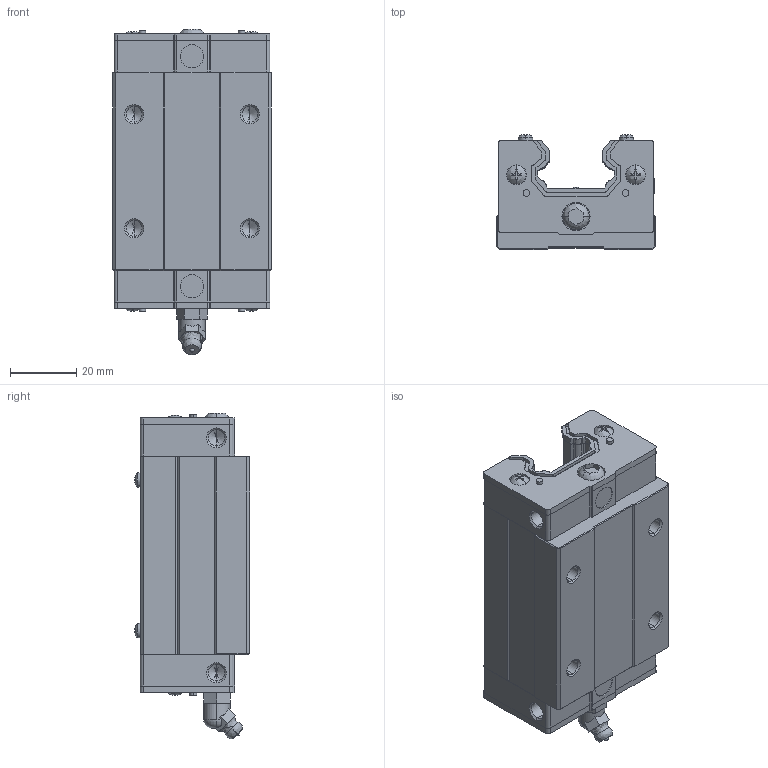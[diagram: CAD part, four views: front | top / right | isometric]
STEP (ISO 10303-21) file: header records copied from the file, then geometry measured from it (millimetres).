
FILE_DESCRIPTION (( 'STEP AP214' ), '1' );
FILE_NAME ('TRH25-B_HGH25CA.STEP', '2020-10-08T10:03:42', ( '' ), ( '' ), 'SwSTEP 2.0', 'SolidWorks 2018', '' );
FILE_SCHEMA (( 'AUTOMOTIVE_DESIGN' ));
Length unit declared in the file: millimetre
Products named in the file (8): TRH25-B_HGH25CA-5_M3*4; TRH25-B_HGH25CA-1; TRH25-B_HGH25CA-2; TRH25-B_HGH25CA-3; TRH25-B_HGH25CA; TRH25-B_HGH25CA-4; TRH25-B_HGH25CA-7_M3*4; TRH25-B_HGH25CA-6_M3*4
Assembly tree (17 placements, depth 2):
  TRH25-B_HGH25CA
    TRH25-B_HGH25CA-3  x2
    TRH25-B_HGH25CA-2  x2
    TRH25-B_HGH25CA-1
    TRH25-B_HGH25CA-5_M3*4  x6
    TRH25-B_HGH25CA-6_M3*4  x4
    TRH25-B_HGH25CA-7_M3*4
    TRH25-B_HGH25CA-4
Bounding box: 48 x 34.78 x 98.42 mm (x, y, z)
Volume: 95659.4 mm3; surface area: 34427.7 mm2
Topology: 18 solids, 18 shells, 1018 faces, 2669 edges, 1717 vertices
Faces by surface type: plane 585, cylinder 256, bspline 72, cone 66, torus 25, sphere 14
Entity records: 24499 total; most frequent: CARTESIAN_POINT 6151, ORIENTED_EDGE 3274, DIRECTION 3028, EDGE_CURVE 1637, LINE 1140, VECTOR 1140, VERTEX_POINT 1066, AXIS2_PLACEMENT_3D 944
